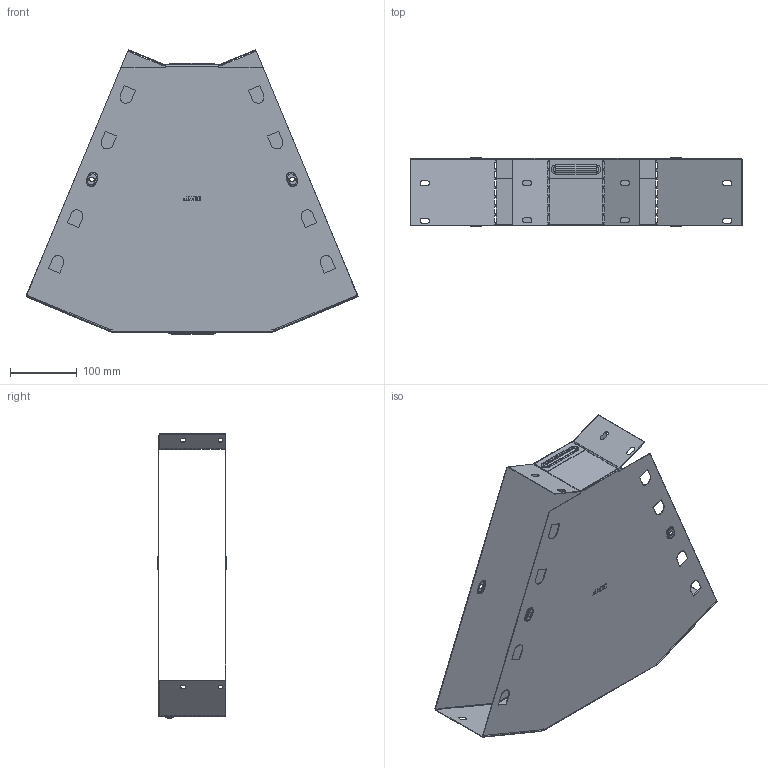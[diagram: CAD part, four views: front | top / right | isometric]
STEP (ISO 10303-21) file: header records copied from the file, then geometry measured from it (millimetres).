
FILE_DESCRIPTION (( 'STEP AP214' ), '1' );
FILE_NAME ('g45100400_捘.STEP', '2019-06-10T08:48:05', ( '砐錪賧瘔蠈錪 Windows' ), ( '' ), 'SwSTEP 2.0', 'SolidWorks 2018', '' );
FILE_SCHEMA (( 'AUTOMOTIVE_DESIGN' ));
Length unit declared in the file: millimetre
Products named in the file (1): g45100400_捘
Bounding box: 496.49 x 103.8 x 425.57 mm (x, y, z)
Volume: 287064.2 mm3; surface area: 722492.5 mm2
Topology: 2 solids, 2 shells, 644 faces, 1816 edges, 1148 vertices
Faces by surface type: plane 370, cylinder 192, torus 64, bspline 18
Entity records: 21724 total; most frequent: CARTESIAN_POINT 4628, ORIENTED_EDGE 3632, DIRECTION 3514, EDGE_CURVE 1816, VECTOR 1300, LINE 1300, VERTEX_POINT 1148, AXIS2_PLACEMENT_3D 1107
